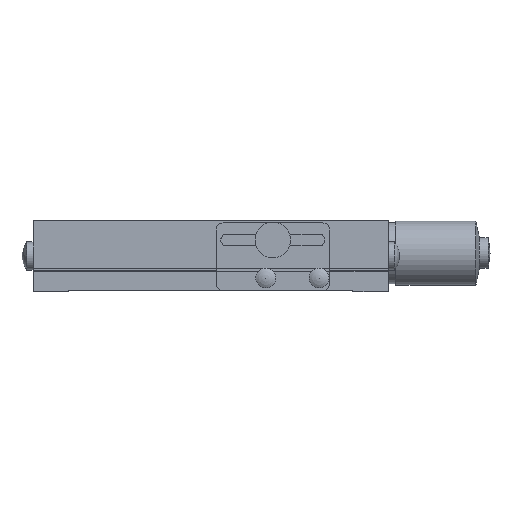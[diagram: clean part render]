
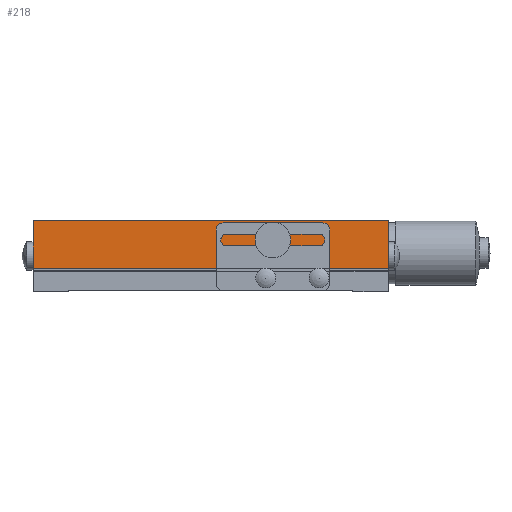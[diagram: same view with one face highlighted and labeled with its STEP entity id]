
A CAD part, front view. The second image highlights one B-rep face of the part: STEP entity #218.
In plain terms, the highlighted planar face has unit normal (0, -1, 0).
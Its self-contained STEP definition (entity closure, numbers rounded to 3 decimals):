
#218 = ADVANCED_FACE( '', ( #585, #586 ), #587, .T. );
#585 = FACE_OUTER_BOUND( '', #1219, .T. );
#586 = FACE_BOUND( '', #1220, .T. );
#587 = PLANE( '', #1221 );
#1219 = EDGE_LOOP( '', ( #1846, #1847, #1848, #1849 ) );
#1220 = EDGE_LOOP( '', ( #1850 ) );
#1221 = AXIS2_PLACEMENT_3D( '', #1851, #1852, #1853 );
#1846 = ORIENTED_EDGE( '', *, *, #3216, .T. );
#1847 = ORIENTED_EDGE( '', *, *, #3217, .T. );
#1848 = ORIENTED_EDGE( '', *, *, #3218, .T. );
#1849 = ORIENTED_EDGE( '', *, *, #3219, .F. );
#1850 = ORIENTED_EDGE( '', *, *, #3220, .F. );
#1851 = CARTESIAN_POINT( '', ( 0., -50., 6.5 ) );
#1852 = DIRECTION( '', ( 0., -1., 0. ) );
#1853 = DIRECTION( '', ( 0., 0., 1. ) );
#3216 = EDGE_CURVE( '', #3750, #3751, #3752, .T. );
#3217 = EDGE_CURVE( '', #3751, #3753, #3754, .T. );
#3218 = EDGE_CURVE( '', #3753, #3755, #3756, .T. );
#3219 = EDGE_CURVE( '', #3750, #3755, #3757, .T. );
#3220 = EDGE_CURVE( '', #3758, #3758, #3759, .T. );
#3750 = VERTEX_POINT( '', #4535 );
#3751 = VERTEX_POINT( '', #4536 );
#3752 = LINE( '', #4537, #4538 );
#3753 = VERTEX_POINT( '', #4539 );
#3754 = LINE( '', #4540, #4541 );
#3755 = VERTEX_POINT( '', #4542 );
#3756 = LINE( '', #4543, #4544 );
#3757 = LINE( '', #4545, #4546 );
#3758 = VERTEX_POINT( '', #4547 );
#3759 = CIRCLE( '', #4548, 1.5 );
#4535 = CARTESIAN_POINT( '', ( -50., -50., 6.5 ) );
#4536 = CARTESIAN_POINT( '', ( 50., -50., 6.5 ) );
#4537 = CARTESIAN_POINT( '', ( 0., -50., 6.5 ) );
#4538 = VECTOR( '', #5557, 1000. );
#4539 = CARTESIAN_POINT( '', ( 50., -50., 20. ) );
#4540 = CARTESIAN_POINT( '', ( 50., -50., 6.5 ) );
#4541 = VECTOR( '', #5558, 1000. );
#4542 = CARTESIAN_POINT( '', ( -50., -50., 20. ) );
#4543 = CARTESIAN_POINT( '', ( 0., -50., 20. ) );
#4544 = VECTOR( '', #5559, 1000. );
#4545 = CARTESIAN_POINT( '', ( -50., -50., 6.5 ) );
#4546 = VECTOR( '', #5560, 1000. );
#4547 = CARTESIAN_POINT( '', ( 17.5, -50., 16. ) );
#4548 = AXIS2_PLACEMENT_3D( '', #5561, #5562, #5563 );
#5557 = DIRECTION( '', ( 1., 0., 0. ) );
#5558 = DIRECTION( '', ( 0., 0., 1. ) );
#5559 = DIRECTION( '', ( -1., 0., 0. ) );
#5560 = DIRECTION( '', ( 0., 0., 1. ) );
#5561 = CARTESIAN_POINT( '', ( 17.5, -50., 14.5 ) );
#5562 = DIRECTION( '', ( 0., -1., 0. ) );
#5563 = DIRECTION( '', ( 0., 0., 1. ) );
